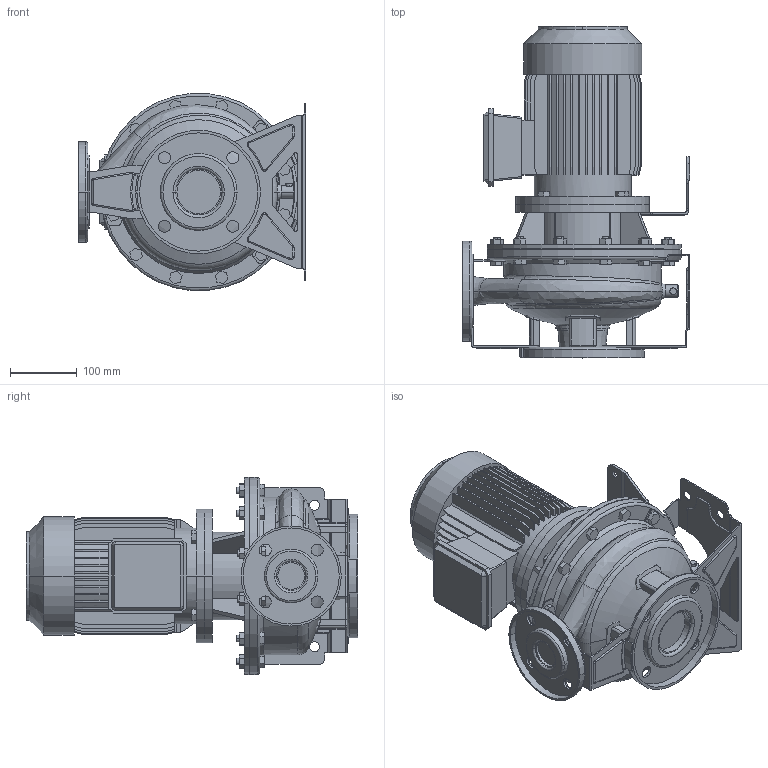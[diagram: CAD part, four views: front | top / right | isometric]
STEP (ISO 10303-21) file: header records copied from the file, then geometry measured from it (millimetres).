
FILE_DESCRIPTION((''),'2;1');
FILE_NAME('3S4_40-200_1_5_IE3_ASM','2016-09-23T',('rosa'),('"Ebara Pumps Europe +39.444.706811"'),'PRO/ENGINEER BY PARAMETRIC TECHNOLOGY CORPORATION, 2012130','PRO/ENGINEER BY PARAMETRIC TECHNOLOGY CORPORATION, 2012130','');
FILE_SCHEMA(('AUTOMOTIVE_DESIGN { 1 0 10303 214 1 1 1 1 }'));
Length unit declared in the file: millimetre
Products named in the file (11): MOTORE_90_1_1-1_5_KW_4POLI_B5; SUPPORTO_3S_230_90; SOSTEGNO_3S_72020; CORPO_40-200_AF0; ASP_40-200; FLANGIA_DIN_65; MAND_40-200; FLANGIA_DIN_40; BASE_3M_40-200; CORPO_SALDATO_40-200_ASM; 3S4_40-200_1_5_IE3_ASM
Assembly tree (10 placements, depth 3):
  3S4_40-200_1_5_IE3_ASM
    MOTORE_90_1_1-1_5_KW_4POLI_B5
    SUPPORTO_3S_230_90
    SOSTEGNO_3S_72020
    CORPO_SALDATO_40-200_ASM
      CORPO_40-200_AF0
      ASP_40-200
      FLANGIA_DIN_65
      MAND_40-200
      FLANGIA_DIN_40
      BASE_3M_40-200
Bounding box: 340 x 497 x 295.13 mm (x, y, z)
Volume: 12357781.3 mm3; surface area: 1328669.7 mm2
Topology: 12 solids, 12 shells, 1139 faces, 2924 edges, 1922 vertices
Faces by surface type: plane 710, cylinder 311, torus 54, bspline 34, cone 24, sphere 6
Entity records: 48103 total; most frequent: CARTESIAN_POINT 9100, DIRECTION 5959, ORIENTED_EDGE 5848, EDGE_CURVE 2924, PRESENTATION_STYLE_ASSIGNMENT 2795, STYLED_ITEM 2795, CURVE_STYLE 2784, AXIS2_PLACEMENT_3D 2012
